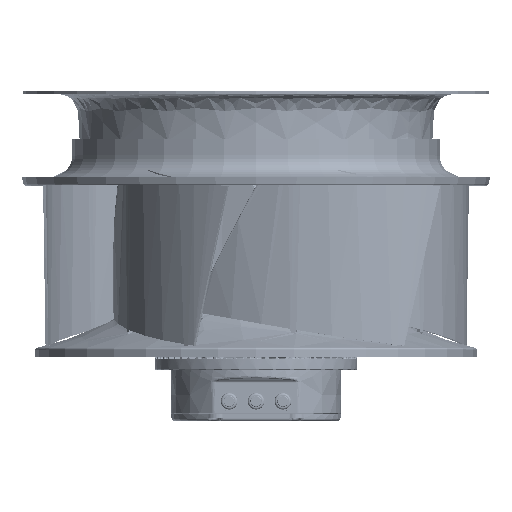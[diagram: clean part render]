
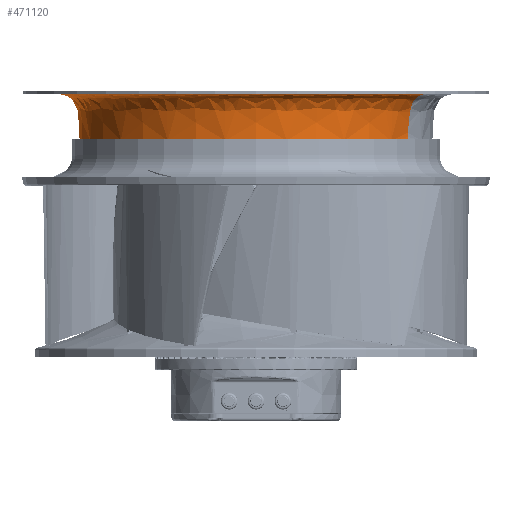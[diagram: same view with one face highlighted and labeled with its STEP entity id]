
A CAD part, top view. The second image highlights one B-rep face of the part: STEP entity #471120.
In plain terms, the highlighted face is a revolution surface.
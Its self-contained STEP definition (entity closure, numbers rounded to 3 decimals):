
#470553=CARTESIAN_POINT('',(0.,20.036,0.));
#470554=DIRECTION('',(0.,1.,0.));
#470555=DIRECTION('',(-1.,0.,0.));
#470556=AXIS2_PLACEMENT_3D('',#470553,#470554,#470555);
#470572=CARTESIAN_POINT('',(-266.94,83.546,0.));
#470573=CARTESIAN_POINT('',(-262.593,83.615,0.));
#470574=CARTESIAN_POINT('',(-256.028,81.861,0.));
#470575=CARTESIAN_POINT('',(-249.058,76.386,0.));
#470576=CARTESIAN_POINT('',(-245.088,71.202,0.));
#470577=CARTESIAN_POINT('',(-241.9,62.067,0.));
#470578=CARTESIAN_POINT('',(-239.42,44.577,0.));
#470579=CARTESIAN_POINT('',(-238.019,29.409,0.));
#470580=CARTESIAN_POINT('',(-239.697,20.036,0.));
#470582=CARTESIAN_POINT('',(0.,83.546,0.));
#470583=DIRECTION('',(0.,1.,0.));
#470584=DIRECTION('',(-1.,0.,0.));
#470585=AXIS2_PLACEMENT_3D('',#470582,#470583,#470584);
#470587=CARTESIAN_POINT('',(266.94,83.546,0.));
#470588=CARTESIAN_POINT('',(262.593,83.615,
0.));
#470589=CARTESIAN_POINT('',(256.028,81.861,
0.));
#470590=CARTESIAN_POINT('',(249.058,76.386,
0.));
#470591=CARTESIAN_POINT('',(245.088,71.202,
0.));
#470592=CARTESIAN_POINT('',(241.9,62.067,
0.));
#470593=CARTESIAN_POINT('',(239.42,44.577,
0.));
#470594=CARTESIAN_POINT('',(238.019,29.409,
0.));
#470595=CARTESIAN_POINT('',(239.697,20.036,0.));
#470877=VERTEX_POINT('',#470572);
#470878=VERTEX_POINT('',#470580);
#470881=VERTEX_POINT('',#470587);
#470882=VERTEX_POINT('',#470595);
#471097=CARTESIAN_POINT('',(-267.719,83.52,0.));
#471098=CARTESIAN_POINT('',(-267.46,83.533,0.));
#471099=CARTESIAN_POINT('',(-262.855,83.685,0.));
#471100=CARTESIAN_POINT('',(-256.028,81.861,0.));
#471101=CARTESIAN_POINT('',(-249.058,76.386,0.));
#471102=CARTESIAN_POINT('',(-245.088,71.202,0.));
#471103=CARTESIAN_POINT('',(-241.9,62.067,0.));
#471104=CARTESIAN_POINT('',(-239.42,44.577,0.));
#471105=CARTESIAN_POINT('',(-237.995,29.145,0.));
#471106=CARTESIAN_POINT('',(-239.791,19.524,0.));
#471107=CARTESIAN_POINT('',(-239.841,19.268,0.));
#471109=CARTESIAN_POINT('',(0.,89.957,0.));
#471110=DIRECTION('',(0.,-1.,0.));
#471111=AXIS1_PLACEMENT('',#471109,#471110);
#471112=SURFACE_OF_REVOLUTION('',#471108,#471111);
#471113=ORIENTED_EDGE('',*,*,#471087,.F.);
#471115=ORIENTED_EDGE('',*,*,#471114,.T.);
#471116=ORIENTED_EDGE('',*,*,#471090,.T.);
#471117=ORIENTED_EDGE('',*,*,#471050,.F.);
#471118=EDGE_LOOP('',(#471113,#471115,#471116,#471117));
#471119=FACE_OUTER_BOUND('',#471118,.F.);
#471120=ADVANCED_FACE('',(#471119),#471112,.T.);
#470557=CIRCLE('',#470556,239.697);
#470581=B_SPLINE_CURVE_WITH_KNOTS('',3,(#470572,#470573,#470574,#470575,#470576,
#470577,#470578,#470579,#470580),.UNSPECIFIED.,.F.,.F.,(4,1,1,1,1,1,4),(0.,
0.176,0.263,0.351,0.439,
0.643,1.),.UNSPECIFIED.);
#470586=CIRCLE('',#470585,266.94);
#470596=B_SPLINE_CURVE_WITH_KNOTS('',3,(#470587,#470588,#470589,#470590,#470591,
#470592,#470593,#470594,#470595),.UNSPECIFIED.,.F.,.F.,(4,1,1,1,1,1,4),(0.,
0.176,0.263,0.351,0.439,
0.643,1.),.UNSPECIFIED.);
#471050=EDGE_CURVE('',#470878,#470882,#470557,.T.);
#471087=EDGE_CURVE('',#470877,#470878,#470581,.T.);
#471090=EDGE_CURVE('',#470881,#470882,#470596,.T.);
#471108=B_SPLINE_CURVE_WITH_KNOTS('',3,(#471097,#471098,#471099,#471100,#471101,
#471102,#471103,#471104,#471105,#471106,#471107),.UNSPECIFIED.,.F.,.F.,(4,1,1,1,
1,1,1,1,4),(0.,0.01,0.183,0.268,
0.354,0.44,0.64,0.99,1.),
.UNSPECIFIED.);
#471114=EDGE_CURVE('',#470877,#470881,#470586,.T.);
